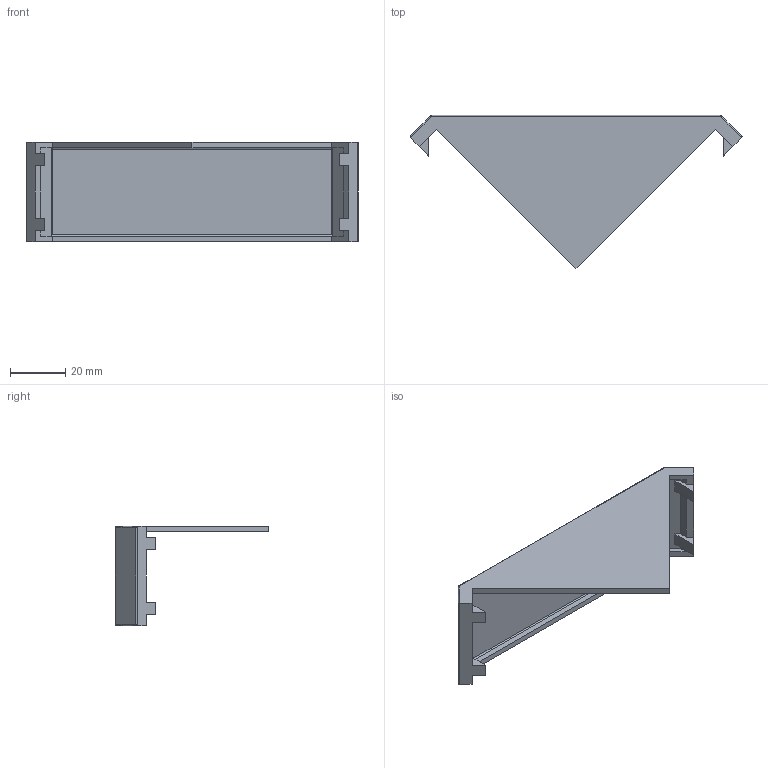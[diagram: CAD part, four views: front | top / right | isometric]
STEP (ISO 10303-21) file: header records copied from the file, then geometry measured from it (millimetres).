
FILE_DESCRIPTION (( 'STEP AP214' ), '1' );
FILE_NAME ('1059cap-GRAY.STEP', '2026-08-26T04:41:40', ( '' ), ( '' ), 'SwSTEP 2.0', 'SolidWorks 2022', '' );
FILE_SCHEMA (( 'AUTOMOTIVE_DESIGN' ));
Length unit declared in the file: millimetre
Products named in the file (1): 1059cap-GRAY
Bounding box: 120 x 55.43 x 36 mm (x, y, z)
Volume: 18600.8 mm3; surface area: 16447.3 mm2
Topology: 1 solids, 1 shells, 58 faces, 155 edges, 96 vertices
Faces by surface type: plane 39, cylinder 15, sphere 4
Entity records: 1774 total; most frequent: CARTESIAN_POINT 349, ORIENTED_EDGE 304, DIRECTION 268, EDGE_CURVE 152, VECTOR 126, LINE 126, VERTEX_POINT 96, AXIS2_PLACEMENT_3D 71
